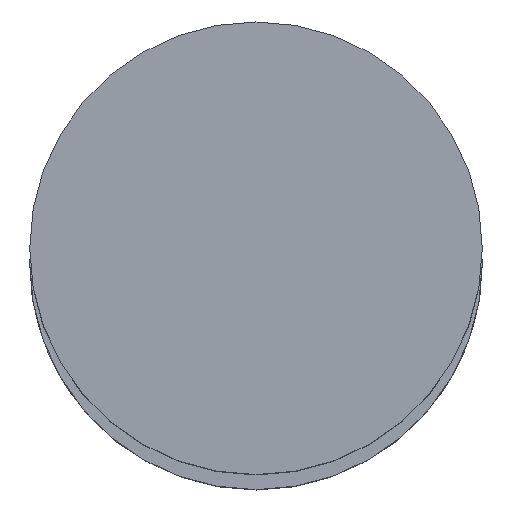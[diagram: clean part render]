
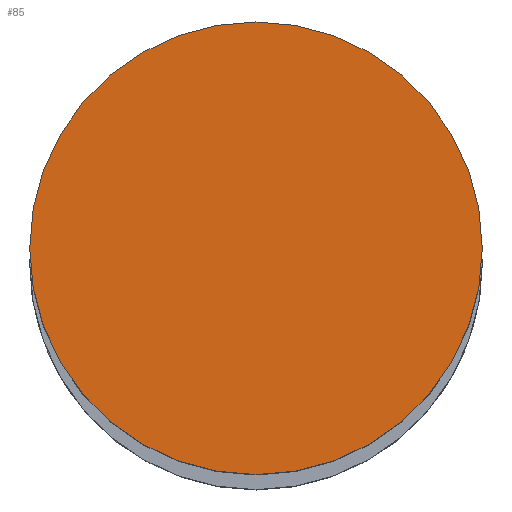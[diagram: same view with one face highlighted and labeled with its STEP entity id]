
A CAD part, top view. The second image highlights one B-rep face of the part: STEP entity #85.
In plain terms, the highlighted planar face has unit normal (0, 0, 1).
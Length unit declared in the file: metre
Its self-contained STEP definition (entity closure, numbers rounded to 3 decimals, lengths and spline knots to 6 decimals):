
#85=ADVANCED_FACE('56:4857',(#165),#166,.F.);
#165=FACE_OUTER_BOUND('',#244,.T.);
#166=PLANE('',#245);
#244=EDGE_LOOP('',(#390,#391));
#245=AXIS2_PLACEMENT_3D('',#392,#393,#394);
#390=ORIENTED_EDGE('',*,*,#433,.F.);
#391=ORIENTED_EDGE('',*,*,#478,.F.);
#392=CARTESIAN_POINT('',(-0.000092,0.000095,3.324));
#393=DIRECTION('',(0.0,0.0,-1.0));
#394=DIRECTION('',(1.0,0.0,0.0));
#433=EDGE_CURVE('27:1418',#505,#501,#507,.T.);
#478=EDGE_CURVE('',#501,#505,#572,.T.);
#501=VERTEX_POINT('',#607);
#505=VERTEX_POINT('',#612);
#507=CIRCLE('',#615,0.0155);
#572=CIRCLE('',#694,0.0155);
#607=CARTESIAN_POINT('',(0.015408,0.000095,3.324));
#612=CARTESIAN_POINT('',(-0.015592,0.000095,3.324));
#615=AXIS2_PLACEMENT_3D('',#736,#737,#738);
#694=AXIS2_PLACEMENT_3D('',#801,#802,#803);
#736=CARTESIAN_POINT('',(-0.000092,0.000095,3.324));
#737=DIRECTION('',(0.0,0.0,-1.0));
#738=DIRECTION('',(1.0,0.0,0.0));
#801=CARTESIAN_POINT('',(-0.000092,0.000095,3.324));
#802=DIRECTION('',(0.0,0.0,-1.0));
#803=DIRECTION('',(1.0,0.0,0.0));
